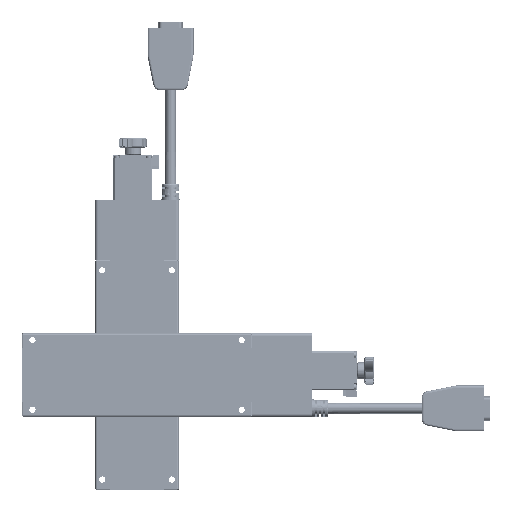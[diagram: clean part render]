
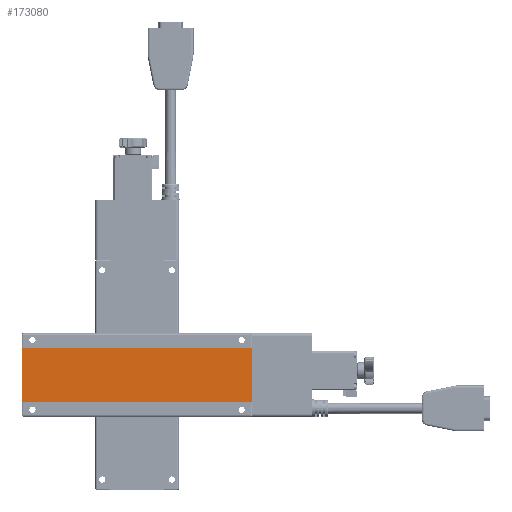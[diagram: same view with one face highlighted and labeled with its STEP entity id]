
A CAD part, front view. The second image highlights one B-rep face of the part: STEP entity #173080.
In plain terms, the highlighted planar face has unit normal (0, -1, 0).
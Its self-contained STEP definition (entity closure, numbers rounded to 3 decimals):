
#22583 = EDGE_LOOP ( 'NONE', ( #443194, #221684, #135040, #147466 ) ) ;
#24673 = CARTESIAN_POINT ( 'NONE',  ( 6.433, 0.8, 164.8 ) ) ;
#29697 = CARTESIAN_POINT ( 'NONE',  ( -19.3, 0.8, 109.933 ) ) ;
#42580 = CARTESIAN_POINT ( 'NONE',  ( 19.3, 0.8, 0.2 ) ) ;
#44632 = CARTESIAN_POINT ( 'NONE',  ( -19.3, 0.8, 164.8 ) ) ;
#76332 = CARTESIAN_POINT ( 'NONE',  ( 19.3, 0.8, 0.2 ) ) ;
#89697 = B_SPLINE_CURVE_WITH_KNOTS ( 'NONE', 3,
 ( #42580, #196085, #188999, #229719 ),
 .UNSPECIFIED., .F., .F.,
 ( 4, 4 ),
 ( 0., 1. ),
 .UNSPECIFIED. ) ;
#129909 = VERTEX_POINT ( 'NONE', #464816 ) ;
#135040 = ORIENTED_EDGE ( 'NONE', *, *, #276088, .T. ) ;
#139831 = CARTESIAN_POINT ( 'NONE',  ( 19.3, 0.8, 164.8 ) ) ;
#147466 = ORIENTED_EDGE ( 'NONE', *, *, #378309, .T. ) ;
#170925 = B_SPLINE_CURVE_WITH_KNOTS ( 'NONE', 3,
 ( #178446, #29697, #250477, #468841 ),
 .UNSPECIFIED., .F., .F.,
 ( 4, 4 ),
 ( 0., 1. ),
 .UNSPECIFIED. ) ;
#171032 = CARTESIAN_POINT ( 'NONE',  ( -19.3, 0.8, 164.8 ) ) ;
#173080 = ADVANCED_FACE ( 'NONE', ( #183906 ), #253555, .F. ) ;
#174110 = CARTESIAN_POINT ( 'NONE',  ( 19.3, 0.8, 0.2 ) ) ;
#178446 = CARTESIAN_POINT ( 'NONE',  ( -19.3, 0.8, 164.8 ) ) ;
#183906 = FACE_OUTER_BOUND ( 'NONE', #22583, .T. ) ;
#188088 = EDGE_CURVE ( 'NONE', #318863, #274868, #362454, .T. ) ;
#188999 = CARTESIAN_POINT ( 'NONE',  ( 19.3, 0.8, 109.933 ) ) ;
#193301 = EDGE_CURVE ( 'NONE', #274868, #129909, #89697, .T. ) ;
#196085 = CARTESIAN_POINT ( 'NONE',  ( 19.3, 0.8, 55.067 ) ) ;
#210131 = AXIS2_PLACEMENT_3D ( 'NONE', #44632, #371085, #258261 ) ;
#221684 = ORIENTED_EDGE ( 'NONE', *, *, #193301, .T. ) ;
#229719 = CARTESIAN_POINT ( 'NONE',  ( 19.3, 0.8, 164.8 ) ) ;
#250477 = CARTESIAN_POINT ( 'NONE',  ( -19.3, 0.8, 55.067 ) ) ;
#253555 = PLANE ( 'NONE',  #210131 ) ;
#254331 = CARTESIAN_POINT ( 'NONE',  ( -19.3, 0.8, 0.2 ) ) ;
#258261 = DIRECTION ( 'NONE',  ( 1., 0., 0. ) ) ;
#274868 = VERTEX_POINT ( 'NONE', #174110 ) ;
#276088 = EDGE_CURVE ( 'NONE', #129909, #371191, #397448, .T. ) ;
#318863 = VERTEX_POINT ( 'NONE', #254331 ) ;
#335622 = CARTESIAN_POINT ( 'NONE',  ( -19.3, 0.8, 0.2 ) ) ;
#362454 = B_SPLINE_CURVE_WITH_KNOTS ( 'NONE', 3,
 ( #335622, #412272, #373993, #76332 ),
 .UNSPECIFIED., .F., .F.,
 ( 4, 4 ),
 ( 0., 1. ),
 .UNSPECIFIED. ) ;
#371085 = DIRECTION ( 'NONE',  ( 0., 1., 0. ) ) ;
#371191 = VERTEX_POINT ( 'NONE', #448536 ) ;
#373993 = CARTESIAN_POINT ( 'NONE',  ( 6.433, 0.8, 0.2 ) ) ;
#378309 = EDGE_CURVE ( 'NONE', #371191, #318863, #170925, .T. ) ;
#397448 = B_SPLINE_CURVE_WITH_KNOTS ( 'NONE', 3,
 ( #139831, #24673, #432582, #171032 ),
 .UNSPECIFIED., .F., .F.,
 ( 4, 4 ),
 ( 0., 1. ),
 .UNSPECIFIED. ) ;
#412272 = CARTESIAN_POINT ( 'NONE',  ( -6.433, 0.8, 0.2 ) ) ;
#432582 = CARTESIAN_POINT ( 'NONE',  ( -6.433, 0.8, 164.8 ) ) ;
#443194 = ORIENTED_EDGE ( 'NONE', *, *, #188088, .T. ) ;
#448536 = CARTESIAN_POINT ( 'NONE',  ( -19.3, 0.8, 164.8 ) ) ;
#464816 = CARTESIAN_POINT ( 'NONE',  ( 19.3, 0.8, 164.8 ) ) ;
#468841 = CARTESIAN_POINT ( 'NONE',  ( -19.3, 0.8, 0.2 ) ) ;
